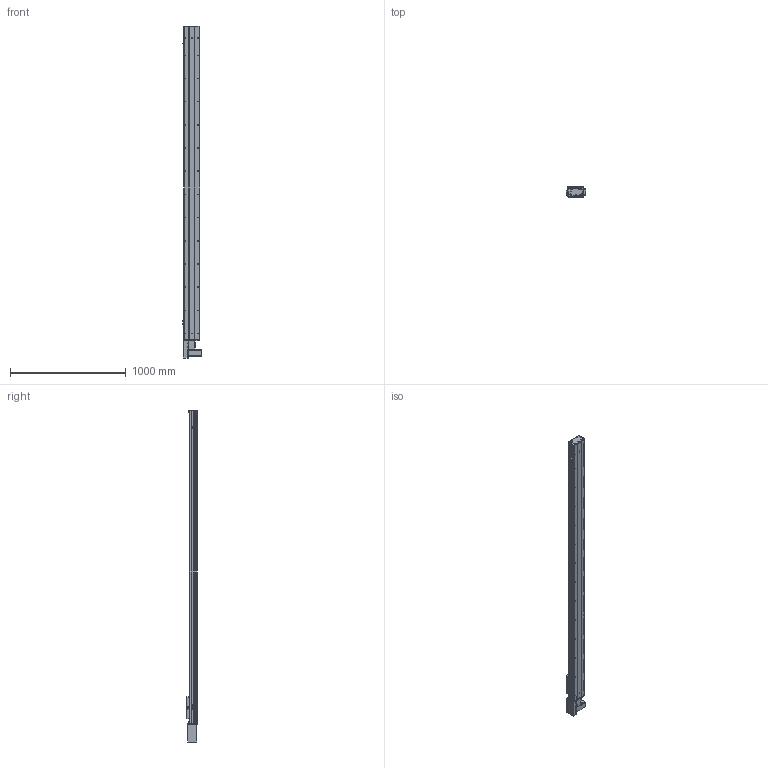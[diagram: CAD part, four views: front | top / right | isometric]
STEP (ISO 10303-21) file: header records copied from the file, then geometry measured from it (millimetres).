
FILE_DESCRIPTION (( 'STEP AP203' ), '1' );
FILE_NAME ('Y135CB-D90-S2400-BR-P400W.STEP', '2020-02-18T03:04:01', ( '微软用户' ), ( '微软中国' ), 'SwSTEP 2.0', 'SolidWorks 2017', '' );
FILE_SCHEMA (( 'CONFIG_CONTROL_DESIGN' ));
Length unit declared in the file: millimetre
Products named in the file (18): Y135CB-D90-S2400-BR-P400W; 5CB --掛极耜裔啣-; 135CB---遴掛极.-; C-詩湍揤踡え-陔; 35CB---喘謫眊楊擘啣; 135CB--詩湍-CE; Y135CB-耜裔; Y10B-耜蚾蟀諉啣----; Y100-135俋离換覜ん--; Y俋欶BR----; Y135C-陔俋离換覜結え-; 0B-埴倛裔啣; 5C--俋欶; 0B-源倛裔啣; C-雄赽釱--; 0B-萇儂楊擘啣; Y10B--々湍喘謫眊--666; san松下电机400不带刹车----
Assembly tree (21 placements, depth 2):
  Y135CB-D90-S2400-BR-P400W
    Y135CB-耜裔
    135CB---遴掛极.-
    35CB---喘謫眊楊擘啣
    Y10B-耜蚾蟀諉啣----
    Y俋欶BR----
    0B-埴倛裔啣
    0B-源倛裔啣
    0B-萇儂楊擘啣
    san松下电机400不带刹车----
    5CB --掛极耜裔啣-  x2
    C-詩湍揤踡え-陔  x2
    135CB--詩湍-CE
    Y100-135俋离換覜ん--  x3
    Y135C-陔俋离換覜結え-
    5C--俋欶
    C-雄赽釱--
    Y10B--々湍喘謫眊--666
Bounding box: 167.5 x 91 x 2864.5 mm (x, y, z)
Volume: 8022978.1 mm3; surface area: 3176856.6 mm2
Topology: 21 solids, 21 shells, 973 faces, 2653 edges, 1758 vertices
Faces by surface type: cylinder 499, plane 458, cone 16
Entity records: 30755 total; most frequent: CARTESIAN_POINT 5120, DIRECTION 5109, ORIENTED_EDGE 4782, EDGE_CURVE 2391, AXIS2_PLACEMENT_3D 1871, VERTEX_POINT 1586, LINE 1367, VECTOR 1367
